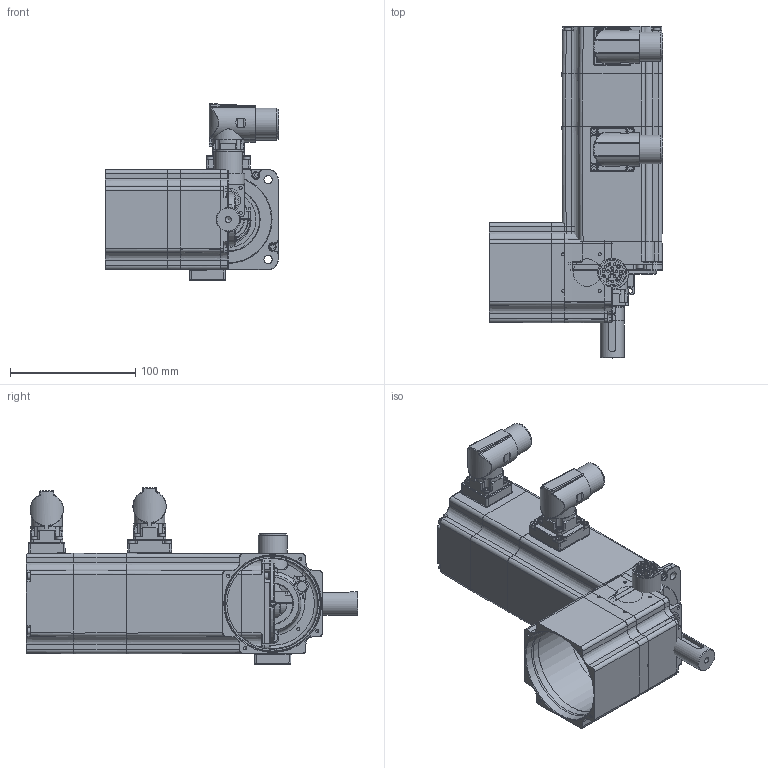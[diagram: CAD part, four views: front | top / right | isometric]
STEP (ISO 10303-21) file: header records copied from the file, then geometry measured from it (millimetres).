
FILE_DESCRIPTION( ( 'Unknown' ), '1' );
FILE_NAME( 'K:/121010-AL Files 3D Step con chiavetta/Q0B262_2,8.stp', 'Unknown', ( 'Unknown' ), ( 'Unknown' ), 'PSStep 14.0', 'Unknown', ' ' );
FILE_SCHEMA( ( 'AUTOMOTIVE_DESIGN { 1 0 10303 214 1 1 1 1 }' ) );
Length unit declared in the file: millimetre
Products named in the file (52): Assem1; N33250; Anello-elastico-chiuso  42; a-ela  20; N35210; N45204; N27221; N11235; CUSC_20_42_12_6004_ZZ; CUSC_15_32_9_6002_ZZ; Vite a brugola testa cil 8,8 -  M  3 x 25; Vite a brugola testa cil 8,8 -  M  3 x 25-oa0; Vite a brugola testa cil 8,8 -  M  3 x 25-oa1; Vite a brugola testa cil 8,8 -  M  3 x 25-oa2; Vite a brugola testa cil 8,8 -  M  3 x 12; Vite a brugola testa cil 8,8 -  M  3 x 12-oa3; Vite a brugola testa cil 8,8 -  M  3 x 12-oa4; Vite a brugola testa cil 8,8 -  M  3 x 12-oa5; Vite a brugola testa cil 8,8 -  M  3 x 40; Vite a brugola testa cil 8,8 -  M  3 x 40-oa6; Vite a brugola testa cil 8,8 -  M  3 x 40-oa7; Vite a brugola testa cil 8,8 -  M  3 x 40-oa8; Vite a brugola testa cil 8,8 -  M  3 x 40-oa9; Vite a brugola testa cil 8,8 -  M  3 x 40-oa10; Vite a brugola testa cil 8,8 -  M  3 x 40-oa11; Vite a brugola testa cil 8,8 -  M  3 x 40-oa12; Vite a brugola testa cil 8,8 -  M 2,5 x 8; Vite a brugola testa cil 8,8 -  M 2,5 x 8-oa13; Vite a brugola testa cil 8,8 -  M 2,5 x 8-oa14; Vite a brugola testa cil 8,8 -  M 2,5 x 8-oa15; Vite a brugola testa cil 8,8 -  M 2,5 x 8-oa16; Vite a brugola testa cil 8,8 -  M 2,5 x 8-oa17; Vite a brugola testa cil 8,8 -  M 2,5 x 8-oa18; Vite a brugola testa cil 8,8 -  M 2,5 x 8-oa19; CN M23 PAN-POT BEDC 110 4+4 pin 90°o SpTcR; n09245; CN M23 PAN-SEG AEDC 139 17 pin 90°o SpTcR; LI-PIA   6x6 x 30; N01386
Bounding box: 138.35 x 264.64 x 140.96 mm (x, y, z)
Volume: 1065133.3 mm3; surface area: 465175.4 mm2
Topology: 102 solids, 106 shells, 3720 faces, 8906 edges, 5678 vertices
Faces by surface type: plane 1798, cylinder 1024, torus 318, cone 310, bspline 174, extrusion 62, sphere 34
Full cylindrical faces by diameter (mm): 2 x54, 2.013 x10, 2.459 x52, 2.5 x20, 2.7 x16, 3 x40, 3.5 x38, 4.7 x16, 4.917 x2, 5.5 x32, 6 x10, 8 x8, 14 x2, 15 x4, 15.001 x2, 17 x4, 19 x4, 19.8 x4, 20 x12, 20.44 x8, 21.3 x4, 22 x4, 23 x4, 24.5 x4, 26 x2, 26.56 x8, 27.04 x8, 32 x6, 32.2 x8, 32.4 x6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
Entity records: 71948 total; most frequent: CARTESIAN_POINT 17254, DIRECTION 8697, ORIENTED_EDGE 7844, EDGE_CURVE 3922, AXIS2_PLACEMENT_3D 3240, VERTEX_POINT 2725, EDGE_LOOP 2518, VECTOR 2217
